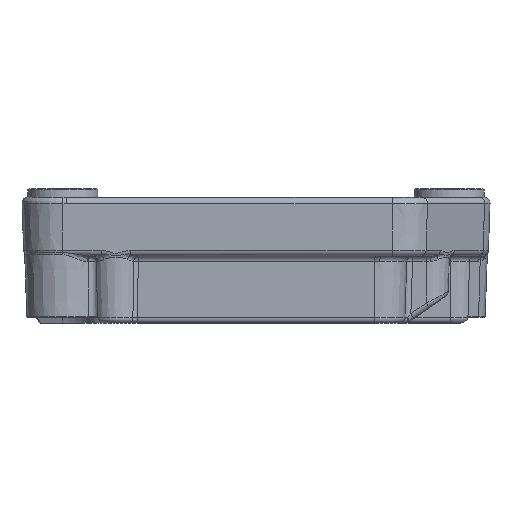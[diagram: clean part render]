
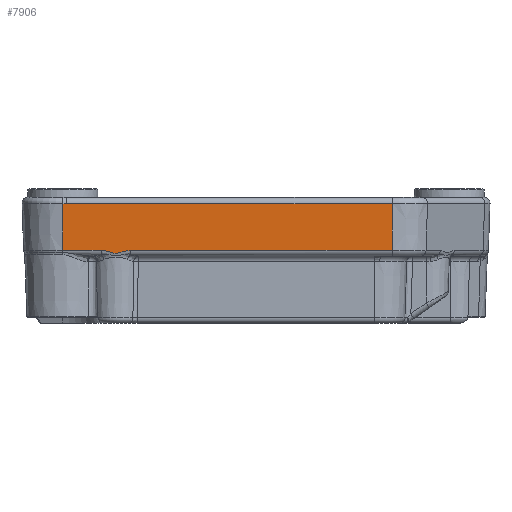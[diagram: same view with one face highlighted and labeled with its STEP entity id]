
A CAD part, front view. The second image highlights one B-rep face of the part: STEP entity #7906.
In plain terms, the highlighted planar face has unit normal (0, -0.999, -0.035).
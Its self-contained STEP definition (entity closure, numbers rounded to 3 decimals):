
#290 = VERTEX_POINT ( 'NONE', #3953 ) ;
#1223 = ORIENTED_EDGE ( 'NONE', *, *, #13079, .T. ) ;
#1227 = B_SPLINE_CURVE_WITH_KNOTS ( 'NONE', 3,
 ( #20766, #35310, #13454, #46352 ),
 .UNSPECIFIED., .F., .F.,
 ( 4, 4 ),
 ( 0., 0.001 ),
 .UNSPECIFIED. ) ;
#1283 = VECTOR ( 'NONE', #18055, 1000. ) ;
#2301 = CARTESIAN_POINT ( 'NONE',  ( -24.81, -29.673, 12.132 ) ) ;
#3405 = CARTESIAN_POINT ( 'NONE',  ( 23.257, -30., 21.5 ) ) ;
#3759 = DIRECTION ( 'NONE',  ( -1., 0., 0. ) ) ;
#3923 = CARTESIAN_POINT ( 'NONE',  ( -33., -29.964, 20.465 ) ) ;
#3953 = CARTESIAN_POINT ( 'NONE',  ( -33., -29.684, 12.465 ) ) ;
#4696 = DIRECTION ( 'NONE',  ( 0., 0.035, -0.999 ) ) ;
#4867 = VERTEX_POINT ( 'NONE', #35220 ) ;
#5946 = CARTESIAN_POINT ( 'NONE',  ( -24.195, -29.668, 11.985 ) ) ;
#6019 = DIRECTION ( 'NONE',  ( 0., -0.999, -0.035 ) ) ;
#7053 = DIRECTION ( 'NONE',  ( 0., -0.035, 0.999 ) ) ;
#7906 = ADVANCED_FACE ( 'NONE', ( #9944 ), #27827, .T. ) ;
#8135 = ORIENTED_EDGE ( 'NONE', *, *, #23010, .T. ) ;
#9587 = CARTESIAN_POINT ( 'NONE',  ( -23.766, -29.668, 11.987 ) ) ;
#9944 = FACE_OUTER_BOUND ( 'NONE', #40496, .T. ) ;
#11273 = ORIENTED_EDGE ( 'NONE', *, *, #24457, .T. ) ;
#11426 = ORIENTED_EDGE ( 'NONE', *, *, #12310, .T. ) ;
#12310 = EDGE_CURVE ( 'NONE', #37648, #19320, #19754, .T. ) ;
#12980 = LINE ( 'NONE', #26496, #20384 ) ;
#13079 = EDGE_CURVE ( 'NONE', #39913, #31742, #1227, .T. ) ;
#13080 = CARTESIAN_POINT ( 'NONE',  ( -26.034, -29.684, 12.465 ) ) ;
#13234 = CARTESIAN_POINT ( 'NONE',  ( -23.444, -29.67, 12.041 ) ) ;
#13454 = CARTESIAN_POINT ( 'NONE',  ( -32.783, -29.964, 20.466 ) ) ;
#13910 = EDGE_CURVE ( 'NONE', #19320, #39913, #15642, .T. ) ;
#15642 = LINE ( 'NONE', #3923, #43616 ) ;
#16821 = CARTESIAN_POINT ( 'NONE',  ( -33., -30., 21.5 ) ) ;
#16898 = CARTESIAN_POINT ( 'NONE',  ( -22.921, -29.675, 12.186 ) ) ;
#18055 = DIRECTION ( 'NONE',  ( 1., 0., 0. ) ) ;
#19320 = VERTEX_POINT ( 'NONE', #34016 ) ;
#19650 = CARTESIAN_POINT ( 'NONE',  ( -32.348, -29.964, 20.465 ) ) ;
#19754 = LINE ( 'NONE', #3405, #22036 ) ;
#20384 = VECTOR ( 'NONE', #4696, 1000. ) ;
#20492 = CARTESIAN_POINT ( 'NONE',  ( -26.462, -29.684, 12.465 ) ) ;
#20552 = CARTESIAN_POINT ( 'NONE',  ( -21.874, -29.684, 12.465 ) ) ;
#20766 = CARTESIAN_POINT ( 'NONE',  ( -32.348, -29.964, 20.465 ) ) ;
#21182 = VERTEX_POINT ( 'NONE', #20492 ) ;
#21589 = AXIS2_PLACEMENT_3D ( 'NONE', #16821, #6019, #31488 ) ;
#22036 = VECTOR ( 'NONE', #7053, 1000. ) ;
#23010 = EDGE_CURVE ( 'NONE', #31742, #290, #12980, .T. ) ;
#23011 = CARTESIAN_POINT ( 'NONE',  ( -33., -29.964, 20.466 ) ) ;
#23898 = CARTESIAN_POINT ( 'NONE',  ( -33., -29.684, 12.465 ) ) ;
#24074 = CARTESIAN_POINT ( 'NONE',  ( -25.013, -29.675, 12.196 ) ) ;
#24457 = EDGE_CURVE ( 'NONE', #290, #21182, #27528, .T. ) ;
#25232 = EDGE_CURVE ( 'NONE', #4867, #37648, #40004, .T. ) ;
#26263 = CARTESIAN_POINT ( 'NONE',  ( 23.257, -29.684, 12.465 ) ) ;
#26496 = CARTESIAN_POINT ( 'NONE',  ( -33., -30., 21.5 ) ) ;
#27528 = LINE ( 'NONE', #23898, #46959 ) ;
#27750 = CARTESIAN_POINT ( 'NONE',  ( -24.401, -29.669, 12.026 ) ) ;
#27827 = PLANE ( 'NONE',  #21589 ) ;
#28301 = ORIENTED_EDGE ( 'NONE', *, *, #33390, .T. ) ;
#29164 = B_SPLINE_CURVE_WITH_KNOTS ( 'NONE', 3,
 ( #38597, #13080, #45954, #24074, #2301, #27750, #5946, #31417, #9587, #35083, #13234, #38759, #16898, #42434, #20552, #46119 ),
 .UNSPECIFIED., .F., .F.,
 ( 4, 2, 2, 2, 2, 2, 2, 4 ),
 ( 0., 0.001, 0.002, 0.003, 0.003, 0.003, 0.004, 0.005 ),
 .UNSPECIFIED. ) ;
#31417 = CARTESIAN_POINT ( 'NONE',  ( -23.875, -29.668, 11.979 ) ) ;
#31488 = DIRECTION ( 'NONE',  ( 0., 0.035, -0.999 ) ) ;
#31742 = VERTEX_POINT ( 'NONE', #23011 ) ;
#33390 = EDGE_CURVE ( 'NONE', #21182, #4867, #29164, .T. ) ;
#34016 = CARTESIAN_POINT ( 'NONE',  ( 23.257, -29.964, 20.465 ) ) ;
#34678 = ORIENTED_EDGE ( 'NONE', *, *, #13910, .T. ) ;
#35083 = CARTESIAN_POINT ( 'NONE',  ( -23.55, -29.669, 12.018 ) ) ;
#35220 = CARTESIAN_POINT ( 'NONE',  ( -21.438, -29.684, 12.465 ) ) ;
#35310 = CARTESIAN_POINT ( 'NONE',  ( -32.565, -29.964, 20.465 ) ) ;
#37648 = VERTEX_POINT ( 'NONE', #26263 ) ;
#38415 = DIRECTION ( 'NONE',  ( 1., 0., 0. ) ) ;
#38597 = CARTESIAN_POINT ( 'NONE',  ( -26.462, -29.684, 12.465 ) ) ;
#38759 = CARTESIAN_POINT ( 'NONE',  ( -23.129, -29.672, 12.121 ) ) ;
#39913 = VERTEX_POINT ( 'NONE', #19650 ) ;
#39928 = CARTESIAN_POINT ( 'NONE',  ( -33., -29.684, 12.465 ) ) ;
#40004 = LINE ( 'NONE', #39928, #1283 ) ;
#40496 = EDGE_LOOP ( 'NONE', ( #11426, #34678, #1223, #8135, #11273, #28301, #46724 ) ) ;
#42434 = CARTESIAN_POINT ( 'NONE',  ( -22.296, -29.681, 12.365 ) ) ;
#43616 = VECTOR ( 'NONE', #3759, 1000. ) ;
#45954 = CARTESIAN_POINT ( 'NONE',  ( -25.623, -29.681, 12.37 ) ) ;
#46119 = CARTESIAN_POINT ( 'NONE',  ( -21.438, -29.684, 12.465 ) ) ;
#46352 = CARTESIAN_POINT ( 'NONE',  ( -33., -29.964, 20.466 ) ) ;
#46724 = ORIENTED_EDGE ( 'NONE', *, *, #25232, .T. ) ;
#46959 = VECTOR ( 'NONE', #38415, 1000. ) ;
